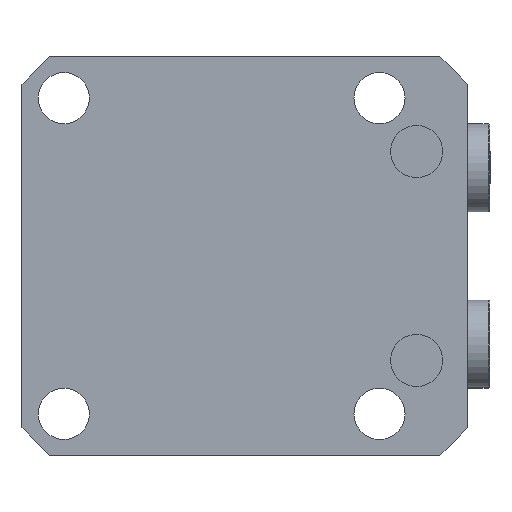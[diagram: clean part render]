
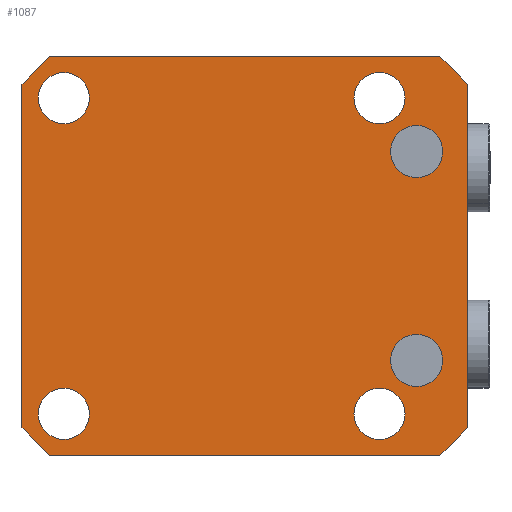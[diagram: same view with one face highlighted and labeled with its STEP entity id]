
A CAD part, front view. The second image highlights one B-rep face of the part: STEP entity #1087.
In plain terms, the highlighted planar face has unit normal (0, -1, 0).
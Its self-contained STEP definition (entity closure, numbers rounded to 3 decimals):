
#216=PLANE('',#4199);
#288=FACE_BOUND('',#1549,.T.);
#289=FACE_BOUND('',#1550,.T.);
#290=FACE_BOUND('',#1551,.T.);
#291=FACE_BOUND('',#1552,.T.);
#292=FACE_BOUND('',#1553,.T.);
#293=FACE_BOUND('',#1554,.T.);
#294=FACE_BOUND('',#1555,.T.);
#601=LINE('',#6320,#868);
#605=LINE('',#6340,#872);
#613=LINE('',#6366,#880);
#618=LINE('',#6385,#885);
#624=LINE('',#6408,#891);
#625=LINE('',#6409,#892);
#626=LINE('',#6410,#893);
#627=LINE('',#6411,#894);
#868=VECTOR('',#5110,1.);
#872=VECTOR('',#5140,1.);
#880=VECTOR('',#5150,1.);
#885=VECTOR('',#5157,1.);
#891=VECTOR('',#5169,1.);
#892=VECTOR('',#5170,1.);
#893=VECTOR('',#5171,1.);
#894=VECTOR('',#5172,1.);
#1087=ADVANCED_FACE('',(#288,#289,#290,#291,#292,#293,#294),#216,.T.);
#1549=EDGE_LOOP('',(#2280,#2281));
#1550=EDGE_LOOP('',(#2282,#2283));
#1551=EDGE_LOOP('',(#2284,#2285));
#1552=EDGE_LOOP('',(#2286,#2287));
#1553=EDGE_LOOP('',(#2288,#2289));
#1554=EDGE_LOOP('',(#2290,#2291));
#1555=EDGE_LOOP('',(#2292,#2293,#2294,#2295,#2296,#2297,#2298,#2299));
#2280=ORIENTED_EDGE('',*,*,#3476,.F.);
#2281=ORIENTED_EDGE('',*,*,#3332,.F.);
#2282=ORIENTED_EDGE('',*,*,#3477,.F.);
#2283=ORIENTED_EDGE('',*,*,#3336,.F.);
#2284=ORIENTED_EDGE('',*,*,#3450,.T.);
#2285=ORIENTED_EDGE('',*,*,#3370,.T.);
#2286=ORIENTED_EDGE('',*,*,#3446,.T.);
#2287=ORIENTED_EDGE('',*,*,#3378,.T.);
#2288=ORIENTED_EDGE('',*,*,#3444,.T.);
#2289=ORIENTED_EDGE('',*,*,#3382,.T.);
#2290=ORIENTED_EDGE('',*,*,#3448,.T.);
#2291=ORIENTED_EDGE('',*,*,#3374,.T.);
#2292=ORIENTED_EDGE('',*,*,#3468,.F.);
#2293=ORIENTED_EDGE('',*,*,#3478,.T.);
#2294=ORIENTED_EDGE('',*,*,#3440,.F.);
#2295=ORIENTED_EDGE('',*,*,#3479,.T.);
#2296=ORIENTED_EDGE('',*,*,#3452,.F.);
#2297=ORIENTED_EDGE('',*,*,#3480,.T.);
#2298=ORIENTED_EDGE('',*,*,#3462,.F.);
#2299=ORIENTED_EDGE('',*,*,#3481,.T.);
#2902=VERTEX_POINT('',#6084);
#2903=VERTEX_POINT('',#6086);
#2906=VERTEX_POINT('',#6093);
#2907=VERTEX_POINT('',#6095);
#2936=VERTEX_POINT('',#6173);
#2937=VERTEX_POINT('',#6174);
#2940=VERTEX_POINT('',#6182);
#2941=VERTEX_POINT('',#6183);
#2944=VERTEX_POINT('',#6191);
#2945=VERTEX_POINT('',#6192);
#2948=VERTEX_POINT('',#6200);
#2949=VERTEX_POINT('',#6201);
#2992=VERTEX_POINT('',#6319);
#2993=VERTEX_POINT('',#6321);
#2996=VERTEX_POINT('',#6341);
#2997=VERTEX_POINT('',#6342);
#3005=VERTEX_POINT('',#6367);
#3006=VERTEX_POINT('',#6368);
#3011=VERTEX_POINT('',#6384);
#3012=VERTEX_POINT('',#6386);
#3332=EDGE_CURVE('',#2902,#2903,#3782,.T.);
#3336=EDGE_CURVE('',#2906,#2907,#3784,.T.);
#3370=EDGE_CURVE('',#2936,#2937,#3798,.T.);
#3374=EDGE_CURVE('',#2940,#2941,#3800,.T.);
#3378=EDGE_CURVE('',#2944,#2945,#3802,.T.);
#3382=EDGE_CURVE('',#2948,#2949,#3804,.T.);
#3440=EDGE_CURVE('',#2992,#2993,#601,.T.);
#3444=EDGE_CURVE('',#2949,#2948,#3808,.T.);
#3446=EDGE_CURVE('',#2945,#2944,#3810,.T.);
#3448=EDGE_CURVE('',#2941,#2940,#3812,.T.);
#3450=EDGE_CURVE('',#2937,#2936,#3814,.T.);
#3452=EDGE_CURVE('',#2996,#2997,#605,.T.);
#3462=EDGE_CURVE('',#3005,#3006,#613,.T.);
#3468=EDGE_CURVE('',#3011,#3012,#618,.T.);
#3476=EDGE_CURVE('',#2903,#2902,#3816,.T.);
#3477=EDGE_CURVE('',#2907,#2906,#3817,.T.);
#3478=EDGE_CURVE('',#3011,#2993,#624,.T.);
#3479=EDGE_CURVE('',#2992,#2997,#625,.T.);
#3480=EDGE_CURVE('',#2996,#3006,#626,.T.);
#3481=EDGE_CURVE('',#3005,#3012,#627,.T.);
#3782=CIRCLE('',#4129,5.6);
#3784=CIRCLE('',#4132,5.6);
#3798=CIRCLE('',#4156,5.5);
#3800=CIRCLE('',#4159,5.5);
#3802=CIRCLE('',#4162,5.5);
#3804=CIRCLE('',#4165,5.5);
#3808=CIRCLE('',#4182,5.5);
#3810=CIRCLE('',#4185,5.5);
#3812=CIRCLE('',#4188,5.5);
#3814=CIRCLE('',#4191,5.5);
#3816=CIRCLE('',#4197,5.6);
#3817=CIRCLE('',#4198,5.6);
#4129=AXIS2_PLACEMENT_3D('',#6085,#4927,#4928);
#4132=AXIS2_PLACEMENT_3D('',#6094,#4935,#4936);
#4156=AXIS2_PLACEMENT_3D('',#6172,#5002,#5003);
#4159=AXIS2_PLACEMENT_3D('',#6181,#5010,#5011);
#4162=AXIS2_PLACEMENT_3D('',#6190,#5018,#5019);
#4165=AXIS2_PLACEMENT_3D('',#6199,#5026,#5027);
#4182=AXIS2_PLACEMENT_3D('',#6328,#5116,#5117);
#4185=AXIS2_PLACEMENT_3D('',#6331,#5122,#5123);
#4188=AXIS2_PLACEMENT_3D('',#6334,#5128,#5129);
#4191=AXIS2_PLACEMENT_3D('',#6337,#5134,#5135);
#4197=AXIS2_PLACEMENT_3D('',#6406,#5165,#5166);
#4198=AXIS2_PLACEMENT_3D('',#6407,#5167,#5168);
#4199=AXIS2_PLACEMENT_3D('',#6412,#5173,#5174);
#4927=DIRECTION('',(0.,-1.,0.));
#4928=DIRECTION('',(0.,0.,-1.));
#4935=DIRECTION('',(0.,-1.,0.));
#4936=DIRECTION('',(0.,0.,-1.));
#5002=DIRECTION('',(0.,1.,0.));
#5003=DIRECTION('',(0.,0.,-1.));
#5010=DIRECTION('',(0.,1.,0.));
#5011=DIRECTION('',(0.,0.,-1.));
#5018=DIRECTION('',(0.,1.,0.));
#5019=DIRECTION('',(0.,0.,-1.));
#5026=DIRECTION('',(0.,1.,0.));
#5027=DIRECTION('',(0.,0.,-1.));
#5110=DIRECTION('',(0.,0.,-1.));
#5116=DIRECTION('',(0.,1.,0.));
#5117=DIRECTION('',(0.,0.,-1.));
#5122=DIRECTION('',(0.,1.,0.));
#5123=DIRECTION('',(0.,0.,-1.));
#5128=DIRECTION('',(0.,1.,0.));
#5129=DIRECTION('',(0.,0.,-1.));
#5134=DIRECTION('',(0.,1.,0.));
#5135=DIRECTION('',(0.,0.,-1.));
#5140=DIRECTION('',(1.,0.,0.));
#5150=DIRECTION('',(0.,0.,1.));
#5157=DIRECTION('',(-1.,0.,0.));
#5165=DIRECTION('',(0.,-1.,0.));
#5166=DIRECTION('',(0.,0.,-1.));
#5167=DIRECTION('',(0.,-1.,0.));
#5168=DIRECTION('',(0.,0.,-1.));
#5169=DIRECTION('',(0.707,0.,0.707));
#5170=DIRECTION('',(-0.707,0.,0.707));
#5171=DIRECTION('',(-0.707,0.,-0.707));
#5172=DIRECTION('',(0.707,0.,-0.707));
#5173=DIRECTION('',(0.,-1.,0.));
#5174=DIRECTION('',(0.,0.,-1.));
#6084=CARTESIAN_POINT('',(-42.,-95.,-16.9));
#6085=CARTESIAN_POINT('',(-42.,-95.,-22.5));
#6086=CARTESIAN_POINT('',(-42.,-95.,-28.1));
#6093=CARTESIAN_POINT('',(-42.,-95.,28.1));
#6094=CARTESIAN_POINT('',(-42.,-95.,22.5));
#6095=CARTESIAN_POINT('',(-42.,-95.,16.9));
#6172=CARTESIAN_POINT('',(-34.,-95.,-34.));
#6173=CARTESIAN_POINT('',(-34.,-95.,-39.5));
#6174=CARTESIAN_POINT('',(-34.,-95.,-28.5));
#6181=CARTESIAN_POINT('',(34.,-95.,34.));
#6182=CARTESIAN_POINT('',(34.,-95.,28.5));
#6183=CARTESIAN_POINT('',(34.,-95.,39.5));
#6190=CARTESIAN_POINT('',(-34.,-95.,34.));
#6191=CARTESIAN_POINT('',(-34.,-95.,28.5));
#6192=CARTESIAN_POINT('',(-34.,-95.,39.5));
#6199=CARTESIAN_POINT('',(34.,-95.,-34.));
#6200=CARTESIAN_POINT('',(34.,-95.,-39.5));
#6201=CARTESIAN_POINT('',(34.,-95.,-28.5));
#6319=CARTESIAN_POINT('',(43.,-95.,37.));
#6320=CARTESIAN_POINT('',(43.,-95.,-43.));
#6321=CARTESIAN_POINT('',(43.,-95.,-37.));
#6328=CARTESIAN_POINT('',(34.,-95.,-34.));
#6331=CARTESIAN_POINT('',(-34.,-95.,34.));
#6334=CARTESIAN_POINT('',(34.,-95.,34.));
#6337=CARTESIAN_POINT('',(-34.,-95.,-34.));
#6340=CARTESIAN_POINT('',(43.,-95.,43.));
#6341=CARTESIAN_POINT('',(-47.,-95.,43.));
#6342=CARTESIAN_POINT('',(37.,-95.,43.));
#6366=CARTESIAN_POINT('',(-53.,-95.,43.));
#6367=CARTESIAN_POINT('',(-53.,-95.,-37.));
#6368=CARTESIAN_POINT('',(-53.,-95.,37.));
#6384=CARTESIAN_POINT('',(37.,-95.,-43.));
#6385=CARTESIAN_POINT('',(43.,-95.,-43.));
#6386=CARTESIAN_POINT('',(-47.,-95.,-43.));
#6406=CARTESIAN_POINT('',(-42.,-95.,-22.5));
#6407=CARTESIAN_POINT('',(-42.,-95.,22.5));
#6408=CARTESIAN_POINT('',(83.,-95.,3.));
#6409=CARTESIAN_POINT('',(40.,-95.,40.));
#6410=CARTESIAN_POINT('',(-2.,-95.,88.));
#6411=CARTESIAN_POINT('',(-45.,-95.,-45.));
#6412=CARTESIAN_POINT('',(43.,-95.,43.));
